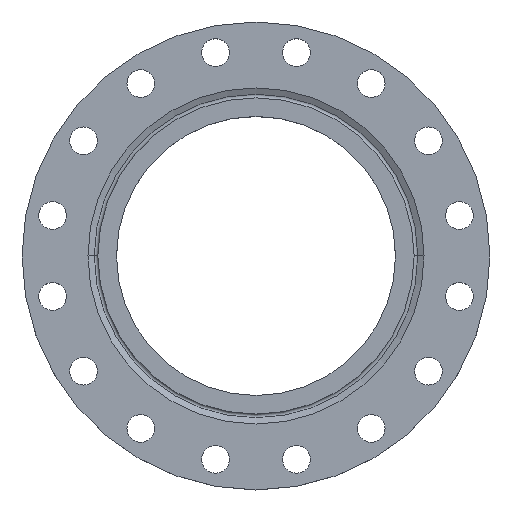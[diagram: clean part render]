
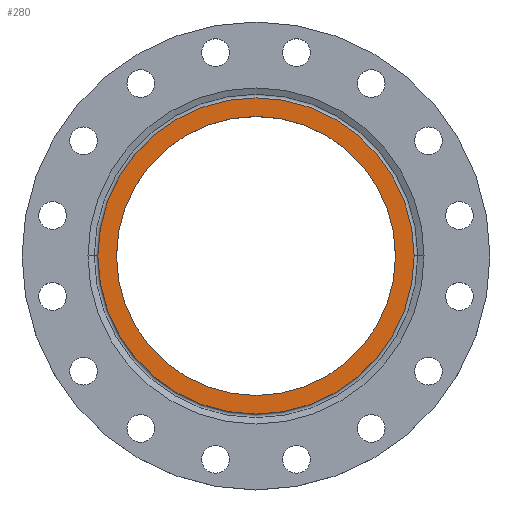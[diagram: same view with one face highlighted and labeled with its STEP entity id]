
A CAD part, top view. The second image highlights one B-rep face of the part: STEP entity #280.
In plain terms, the highlighted planar face has unit normal (0, 0, 1).
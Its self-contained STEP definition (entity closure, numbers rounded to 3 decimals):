
#20 = CARTESIAN_POINT ( 'NONE',  ( 196.752, 0., 0. ) ) ;
#77 = EDGE_CURVE ( 'NONE', #1240, #882, #1525, .T. ) ;
#79 = CARTESIAN_POINT ( 'NONE',  ( -223., 0., 0. ) ) ;
#280 = ADVANCED_FACE ( 'NONE', ( #699, #698 ), #697, .T. ) ;
#282 = CARTESIAN_POINT ( 'NONE',  ( -196.752, 0., 0. ) ) ;
#289 = AXIS2_PLACEMENT_3D ( 'NONE', #696, #693, #692 ) ;
#400 = CARTESIAN_POINT ( 'NONE',  ( 223., 0., 0. ) ) ;
#441 = DIRECTION ( 'NONE',  ( 1., 0., 0. ) ) ;
#443 = DIRECTION ( 'NONE',  ( 0., 0., 1. ) ) ;
#444 = CARTESIAN_POINT ( 'NONE',  ( 0., 0., 0. ) ) ;
#568 = CIRCLE ( 'NONE', #573, 196.752 ) ;
#573 = AXIS2_PLACEMENT_3D ( 'NONE', #444, #443, #441 ) ;
#692 = DIRECTION ( 'NONE',  ( 1., 0., 0. ) ) ;
#693 = DIRECTION ( 'NONE',  ( 0., 0., 1. ) ) ;
#696 = CARTESIAN_POINT ( 'NONE',  ( 0., 0., 0. ) ) ;
#697 = PLANE ( 'NONE',  #289 ) ;
#698 = FACE_OUTER_BOUND ( 'NONE', #1443, .T. ) ;
#699 = FACE_BOUND ( 'NONE', #890, .T. ) ;
#792 = EDGE_CURVE ( 'NONE', #1076, #1313, #568, .T. ) ;
#798 = DIRECTION ( 'NONE',  ( -1., 0., 0. ) ) ;
#799 = DIRECTION ( 'NONE',  ( 0., 0., -1. ) ) ;
#800 = CARTESIAN_POINT ( 'NONE',  ( 0., 0., 0. ) ) ;
#882 = VERTEX_POINT ( 'NONE', #400 ) ;
#890 = EDGE_LOOP ( 'NONE', ( #1616, #1622 ) ) ;
#1030 = ORIENTED_EDGE ( 'NONE', *, *, #1446, .F. ) ;
#1076 = VERTEX_POINT ( 'NONE', #282 ) ;
#1169 = CIRCLE ( 'NONE', #1171, 196.752 ) ;
#1171 = AXIS2_PLACEMENT_3D ( 'NONE', #1642, #1641, #1638 ) ;
#1180 = AXIS2_PLACEMENT_3D ( 'NONE', #1629, #1624, #1604 ) ;
#1185 = CIRCLE ( 'NONE', #1180, 223. ) ;
#1240 = VERTEX_POINT ( 'NONE', #79 ) ;
#1313 = VERTEX_POINT ( 'NONE', #20 ) ;
#1439 = EDGE_CURVE ( 'NONE', #1313, #1076, #1169, .T. ) ;
#1443 = EDGE_LOOP ( 'NONE', ( #1620, #1030 ) ) ;
#1446 = EDGE_CURVE ( 'NONE', #882, #1240, #1185, .T. ) ;
#1525 = CIRCLE ( 'NONE', #1678, 223. ) ;
#1604 = DIRECTION ( 'NONE',  ( -1., 0., 0. ) ) ;
#1616 = ORIENTED_EDGE ( 'NONE', *, *, #1439, .F. ) ;
#1620 = ORIENTED_EDGE ( 'NONE', *, *, #77, .F. ) ;
#1622 = ORIENTED_EDGE ( 'NONE', *, *, #792, .F. ) ;
#1624 = DIRECTION ( 'NONE',  ( 0., 0., -1. ) ) ;
#1629 = CARTESIAN_POINT ( 'NONE',  ( 0., 0., 0. ) ) ;
#1638 = DIRECTION ( 'NONE',  ( 1., 0., 0. ) ) ;
#1641 = DIRECTION ( 'NONE',  ( 0., 0., 1. ) ) ;
#1642 = CARTESIAN_POINT ( 'NONE',  ( 0., 0., 0. ) ) ;
#1678 = AXIS2_PLACEMENT_3D ( 'NONE', #800, #799, #798 ) ;
